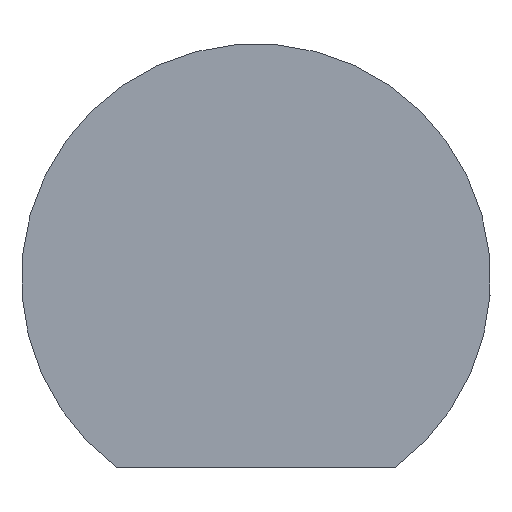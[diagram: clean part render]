
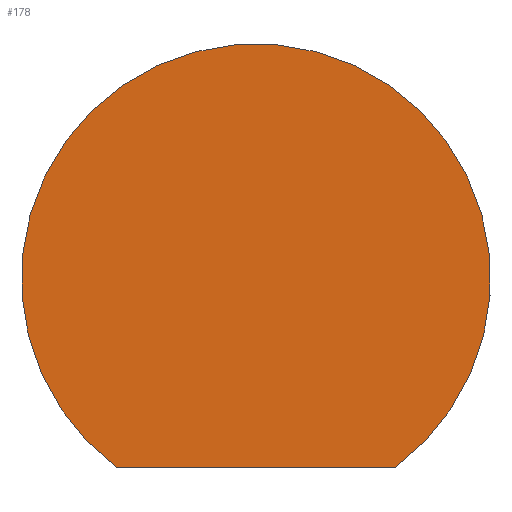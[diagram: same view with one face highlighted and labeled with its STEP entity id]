
A CAD part, left-side view. The second image highlights one B-rep face of the part: STEP entity #178.
In plain terms, the highlighted planar face has unit normal (-1, 0, 0).
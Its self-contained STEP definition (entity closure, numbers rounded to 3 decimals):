
#33 = CYLINDRICAL_SURFACE('',#34,2.05);
#34 = AXIS2_PLACEMENT_3D('',#35,#36,#37);
#35 = CARTESIAN_POINT('',(-67.5,0.,0.));
#36 = DIRECTION('',(1.,0.,0.));
#37 = DIRECTION('',(0.,0.,-1.));
#58 = VERTEX_POINT('',#59);
#59 = CARTESIAN_POINT('',(-67.5,1.217,-1.65));
#72 = PLANE('',#73);
#73 = AXIS2_PLACEMENT_3D('',#74,#75,#76);
#74 = CARTESIAN_POINT('',(-68.5,-3.05,-1.65));
#75 = DIRECTION('',(0.,0.,1.));
#76 = DIRECTION('',(1.,0.,-0.));
#83 = EDGE_CURVE('',#58,#84,#86,.T.);
#84 = VERTEX_POINT('',#85);
#85 = CARTESIAN_POINT('',(-67.5,-1.217,-1.65));
#86 = SURFACE_CURVE('',#87,(#92,#99),.PCURVE_S1.);
#87 = CIRCLE('',#88,2.05);
#88 = AXIS2_PLACEMENT_3D('',#89,#90,#91);
#89 = CARTESIAN_POINT('',(-67.5,0.,0.));
#90 = DIRECTION('',(1.,-0.,0.));
#91 = DIRECTION('',(0.,0.,-1.));
#92 = PCURVE('',#33,#93);
#93 = DEFINITIONAL_REPRESENTATION('',(#94),#98);
#94 = LINE('',#95,#96);
#95 = CARTESIAN_POINT('',(0.,0.));
#96 = VECTOR('',#97,1.);
#97 = DIRECTION('',(1.,0.));
#98 = ( GEOMETRIC_REPRESENTATION_CONTEXT(2) 
PARAMETRIC_REPRESENTATION_CONTEXT() REPRESENTATION_CONTEXT('2D SPACE',''
  ) );
#99 = PCURVE('',#100,#105);
#100 = PLANE('',#101);
#101 = AXIS2_PLACEMENT_3D('',#102,#103,#104);
#102 = CARTESIAN_POINT('',(-67.5,0.,0.));
#103 = DIRECTION('',(1.,0.,0.));
#104 = DIRECTION('',(0.,0.,-1.));
#105 = DEFINITIONAL_REPRESENTATION('',(#106),#110);
#106 = CIRCLE('',#107,2.05);
#107 = AXIS2_PLACEMENT_2D('',#108,#109);
#108 = CARTESIAN_POINT('',(0.,0.));
#109 = DIRECTION('',(1.,0.));
#110 = ( GEOMETRIC_REPRESENTATION_CONTEXT(2) 
PARAMETRIC_REPRESENTATION_CONTEXT() REPRESENTATION_CONTEXT('2D SPACE',''
  ) );
#158 = EDGE_CURVE('',#58,#84,#159,.T.);
#159 = SURFACE_CURVE('',#160,(#164,#170),.PCURVE_S1.);
#160 = LINE('',#161,#162);
#161 = CARTESIAN_POINT('',(-67.5,-1.525,-1.65));
#162 = VECTOR('',#163,1.);
#163 = DIRECTION('',(0.,-1.,0.));
#164 = PCURVE('',#72,#165);
#165 = DEFINITIONAL_REPRESENTATION('',(#166),#169);
#166 = B_SPLINE_CURVE_WITH_KNOTS('',1,(#167,#168),.UNSPECIFIED.,.F.,.F.,
  (2,2),(-3.575,0.525),.PIECEWISE_BEZIER_KNOTS.);
#167 = CARTESIAN_POINT('',(1.,5.1));
#168 = CARTESIAN_POINT('',(1.,1.));
#169 = ( GEOMETRIC_REPRESENTATION_CONTEXT(2) 
PARAMETRIC_REPRESENTATION_CONTEXT() REPRESENTATION_CONTEXT('2D SPACE',''
  ) );
#170 = PCURVE('',#100,#171);
#171 = DEFINITIONAL_REPRESENTATION('',(#172),#175);
#172 = B_SPLINE_CURVE_WITH_KNOTS('',1,(#173,#174),.UNSPECIFIED.,.F.,.F.,
  (2,2),(-3.575,0.525),.PIECEWISE_BEZIER_KNOTS.);
#173 = CARTESIAN_POINT('',(1.65,2.05));
#174 = CARTESIAN_POINT('',(1.65,-2.05));
#175 = ( GEOMETRIC_REPRESENTATION_CONTEXT(2) 
PARAMETRIC_REPRESENTATION_CONTEXT() REPRESENTATION_CONTEXT('2D SPACE',''
  ) );
#178 = ADVANCED_FACE('',(#179),#100,.F.);
#179 = FACE_BOUND('',#180,.F.);
#180 = EDGE_LOOP('',(#181,#182));
#181 = ORIENTED_EDGE('',*,*,#158,.F.);
#182 = ORIENTED_EDGE('',*,*,#83,.T.);
